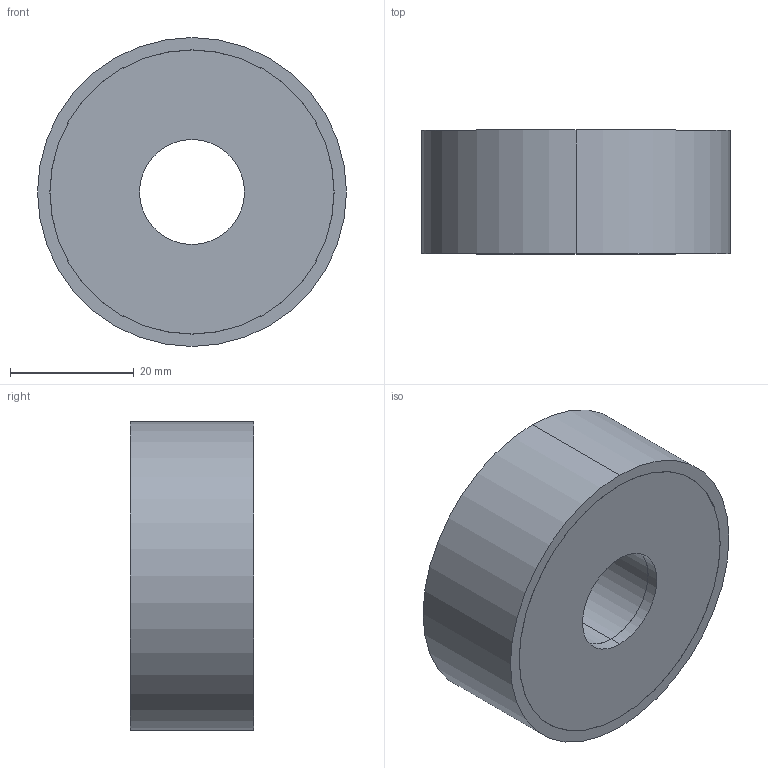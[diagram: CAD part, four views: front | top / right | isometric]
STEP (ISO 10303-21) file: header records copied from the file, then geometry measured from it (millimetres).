
FILE_DESCRIPTION (( 'STEP AP214' ), '1' );
FILE_NAME ('351-50-20-17-DD-70.step', '2025-07-23T10:11:24', ( '' ), ( '' ), 'SwSTEP 2.0', 'SolidWorks 2022', '' );
FILE_SCHEMA (( 'AUTOMOTIVE_DESIGN' ));
Length unit declared in the file: millimetre
Products named in the file (1): 351-50-20-17-DD-70
Bounding box: 50 x 20 x 50 mm (x, y, z)
Volume: 34730.3 mm3; surface area: 7690.7 mm2
Topology: 1 solids, 1 shells, 30 faces, 60 edges, 40 vertices
Faces by surface type: cylinder 20, plane 10
Entity records: 919 total; most frequent: DIRECTION 162, CARTESIAN_POINT 131, ORIENTED_EDGE 120, AXIS2_PLACEMENT_3D 71, EDGE_CURVE 60, VERTEX_POINT 40, EDGE_LOOP 40, CIRCLE 40
